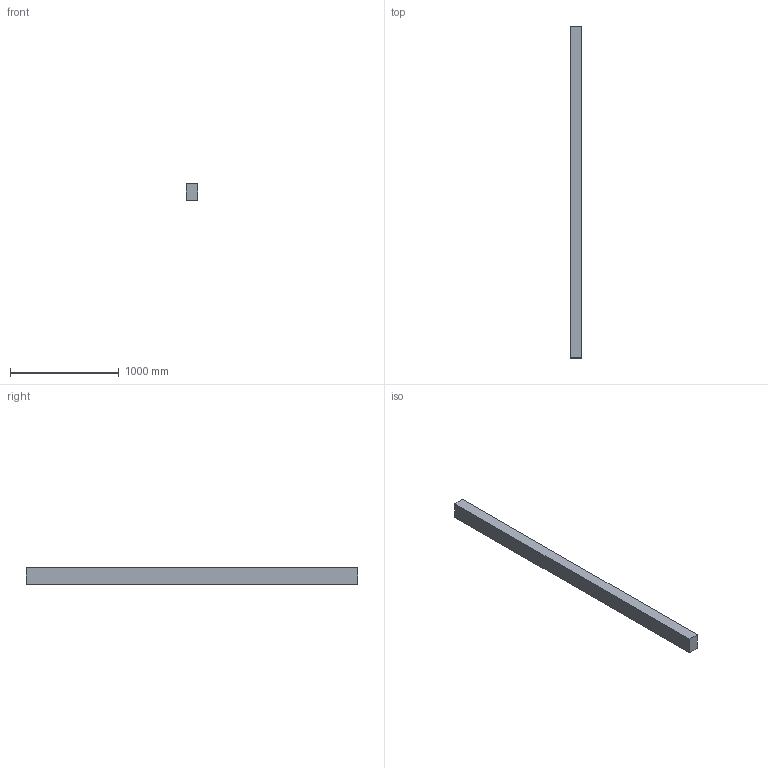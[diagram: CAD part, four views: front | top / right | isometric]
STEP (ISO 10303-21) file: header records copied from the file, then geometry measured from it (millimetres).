
FILE_DESCRIPTION(/* description */ (''),/* implementation_level */ '2;1');
FILE_NAME(/* name */ '4x6x120',/* time_stamp */ '2024-09-20T11:45:57-05:00',/* author */ (''),/* organization */ (''),/* preprocessor_version */ 'ST-DEVELOPER v19.2',/* originating_system */ 'Rhino 8.5',/* authorisation */ '');
FILE_SCHEMA (('CONFIG_CONTROL_DESIGN'));
Length unit declared in the file: inch
Products named in the file (1): Document
Bounding box: 101.6 x 3048 x 152.4 mm (x, y, z)
Volume: 47194744.3 mm3; surface area: 1579351.7 mm2
Topology: 1 solids, 1 shells, 6 faces, 12 edges, 8 vertices
Faces by surface type: plane 6
Entity records: 226 total; most frequent: CARTESIAN_POINT 40, ORIENTED_EDGE 24, EDGE_CURVE 12, B_SPLINE_CURVE_WITH_KNOTS 12, DIRECTION 10, VERTEX_POINT 8, AXIS2_PLACEMENT_3D 8, ORGANIZATION 7
